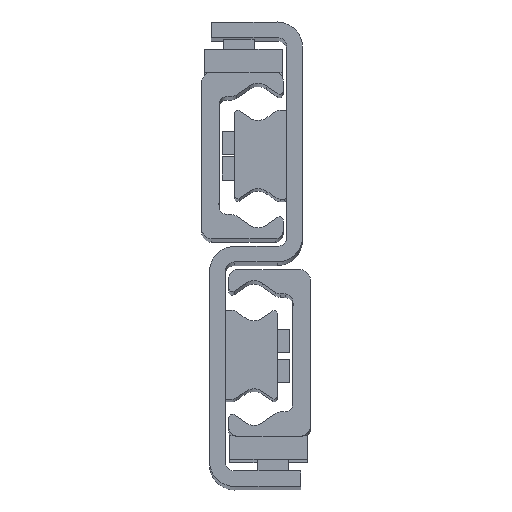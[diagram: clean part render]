
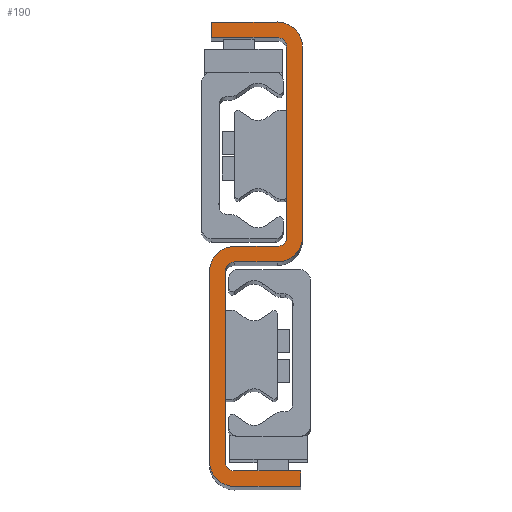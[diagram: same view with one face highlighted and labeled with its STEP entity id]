
A CAD part, top view. The second image highlights one B-rep face of the part: STEP entity #190.
In plain terms, the highlighted planar face has unit normal (0, 0, 1).
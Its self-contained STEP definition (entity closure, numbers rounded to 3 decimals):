
#190=ADVANCED_FACE('',(#569),#570,.T.);
#569=FACE_OUTER_BOUND('',#1123,.T.);
#570=PLANE('',#1124);
#1123=EDGE_LOOP('',(#2301,#2302,#2303,#2304,#2305,#2306,#2307,#2308,#2309,#2310,#2311,#2312,#2313,#2314,#2315,#2316,#2317,#2318,#2319,#2320));
#1124=AXIS2_PLACEMENT_3D('',#2321,#2322,#2323);
#2301=ORIENTED_EDGE('',*,*,#3809,.F.);
#2302=ORIENTED_EDGE('',*,*,#3867,.F.);
#2303=ORIENTED_EDGE('',*,*,#3864,.F.);
#2304=ORIENTED_EDGE('',*,*,#3861,.F.);
#2305=ORIENTED_EDGE('',*,*,#3858,.F.);
#2306=ORIENTED_EDGE('',*,*,#3855,.F.);
#2307=ORIENTED_EDGE('',*,*,#3852,.F.);
#2308=ORIENTED_EDGE('',*,*,#3849,.F.);
#2309=ORIENTED_EDGE('',*,*,#3846,.F.);
#2310=ORIENTED_EDGE('',*,*,#3843,.F.);
#2311=ORIENTED_EDGE('',*,*,#3840,.F.);
#2312=ORIENTED_EDGE('',*,*,#3837,.F.);
#2313=ORIENTED_EDGE('',*,*,#3834,.F.);
#2314=ORIENTED_EDGE('',*,*,#3831,.F.);
#2315=ORIENTED_EDGE('',*,*,#3828,.F.);
#2316=ORIENTED_EDGE('',*,*,#3825,.F.);
#2317=ORIENTED_EDGE('',*,*,#3822,.F.);
#2318=ORIENTED_EDGE('',*,*,#3819,.F.);
#2319=ORIENTED_EDGE('',*,*,#3816,.F.);
#2320=ORIENTED_EDGE('',*,*,#3813,.F.);
#2321=CARTESIAN_POINT('',(-14.,26.,808.0));
#2322=DIRECTION('',(0.0,0.0,1.0));
#2323=DIRECTION('',(1.0,0.0,0.0));
#3809=EDGE_CURVE('',#4647,#4648,#4649,.T.);
#3813=EDGE_CURVE('',#4648,#4655,#4656,.T.);
#3816=EDGE_CURVE('',#4655,#4660,#4661,.T.);
#3819=EDGE_CURVE('',#4660,#4665,#4666,.T.);
#3822=EDGE_CURVE('',#4665,#4670,#4671,.T.);
#3825=EDGE_CURVE('',#4670,#4675,#4676,.T.);
#3828=EDGE_CURVE('',#4675,#4680,#4681,.T.);
#3831=EDGE_CURVE('',#4680,#4685,#4686,.T.);
#3834=EDGE_CURVE('',#4685,#4690,#4691,.T.);
#3837=EDGE_CURVE('',#4690,#4695,#4696,.T.);
#3840=EDGE_CURVE('',#4695,#4700,#4701,.T.);
#3843=EDGE_CURVE('',#4700,#4705,#4706,.T.);
#3846=EDGE_CURVE('',#4705,#4710,#4711,.T.);
#3849=EDGE_CURVE('',#4710,#4715,#4716,.T.);
#3852=EDGE_CURVE('',#4715,#4720,#4721,.T.);
#3855=EDGE_CURVE('',#4720,#4725,#4726,.T.);
#3858=EDGE_CURVE('',#4725,#4730,#4731,.T.);
#3861=EDGE_CURVE('',#4730,#4735,#4736,.T.);
#3864=EDGE_CURVE('',#4735,#4740,#4741,.T.);
#3867=EDGE_CURVE('',#4740,#4647,#4745,.T.);
#4647=VERTEX_POINT('',#5961);
#4648=VERTEX_POINT('',#5962);
#4649=LINE('',#5963,#5964);
#4655=VERTEX_POINT('',#5973);
#4656=CIRCLE('',#5974,2.5);
#4660=VERTEX_POINT('',#5979);
#4661=LINE('',#5980,#5981);
#4665=VERTEX_POINT('',#5987);
#4666=CIRCLE('',#5988,2.5);
#4670=VERTEX_POINT('',#5993);
#4671=LINE('',#5994,#5995);
#4675=VERTEX_POINT('',#6001);
#4676=LINE('',#6002,#6003);
#4680=VERTEX_POINT('',#6009);
#4681=LINE('',#6010,#6011);
#4685=VERTEX_POINT('',#6017);
#4686=CIRCLE('',#6018,6.5);
#4690=VERTEX_POINT('',#6023);
#4691=LINE('',#6024,#6025);
#4695=VERTEX_POINT('',#6031);
#4696=CIRCLE('',#6032,6.5);
#4700=VERTEX_POINT('',#6037);
#4701=LINE('',#6038,#6039);
#4705=VERTEX_POINT('',#6045);
#4706=CIRCLE('',#6046,2.5);
#4710=VERTEX_POINT('',#6051);
#4711=LINE('',#6052,#6053);
#4715=VERTEX_POINT('',#6059);
#4716=CIRCLE('',#6060,2.5);
#4720=VERTEX_POINT('',#6065);
#4721=LINE('',#6066,#6067);
#4725=VERTEX_POINT('',#6073);
#4726=LINE('',#6074,#6075);
#4730=VERTEX_POINT('',#6081);
#4731=LINE('',#6082,#6083);
#4735=VERTEX_POINT('',#6089);
#4736=CIRCLE('',#6090,6.5);
#4740=VERTEX_POINT('',#6095);
#4741=LINE('',#6096,#6097);
#4745=CIRCLE('',#6103,6.5);
#5961=CARTESIAN_POINT('',(-8.5,24.,808.0));
#5962=CARTESIAN_POINT('',(-19.5,24.,808.0));
#5963=CARTESIAN_POINT('',(-8.5,24.,808.0));
#5964=VECTOR('',#7325,1.0);
#5973=CARTESIAN_POINT('',(-22.,21.5,808.0));
#5974=AXIS2_PLACEMENT_3D('',#7329,#7330,#7331);
#5979=CARTESIAN_POINT('',(-22.,-27.5,808.0));
#5980=CARTESIAN_POINT('',(-22.,-27.5,808.0));
#5981=VECTOR('',#7336,1.0);
#5987=CARTESIAN_POINT('',(-19.5,-30.,808.0));
#5988=AXIS2_PLACEMENT_3D('',#7339,#7340,#7341);
#5993=CARTESIAN_POINT('',(-2.5,-30.,808.0));
#5994=CARTESIAN_POINT('',(-19.5,-30.,808.0));
#5995=VECTOR('',#7346,1.0);
#6001=CARTESIAN_POINT('',(-2.5,-34.,808.0));
#6002=CARTESIAN_POINT('',(-2.5,-34.,808.0));
#6003=VECTOR('',#7349,1.0);
#6009=CARTESIAN_POINT('',(-19.5,-34.,808.0));
#6010=CARTESIAN_POINT('',(-19.5,-34.,808.0));
#6011=VECTOR('',#7352,1.0);
#6017=CARTESIAN_POINT('',(-26.,-27.5,808.0));
#6018=AXIS2_PLACEMENT_3D('',#7355,#7356,#7357);
#6023=CARTESIAN_POINT('',(-26.,21.5,808.0));
#6024=CARTESIAN_POINT('',(-26.,21.5,808.0));
#6025=VECTOR('',#7362,1.0);
#6031=CARTESIAN_POINT('',(-19.5,28.,808.0));
#6032=AXIS2_PLACEMENT_3D('',#7365,#7366,#7367);
#6037=CARTESIAN_POINT('',(-8.5,28.,808.0));
#6038=CARTESIAN_POINT('',(-8.5,28.,808.0));
#6039=VECTOR('',#7372,1.0);
#6045=CARTESIAN_POINT('',(-6.,30.5,808.0));
#6046=AXIS2_PLACEMENT_3D('',#7375,#7376,#7377);
#6051=CARTESIAN_POINT('',(-6.,79.5,808.0));
#6052=CARTESIAN_POINT('',(-6.,79.5,808.0));
#6053=VECTOR('',#7382,1.0);
#6059=CARTESIAN_POINT('',(-8.5,82.,808.0));
#6060=AXIS2_PLACEMENT_3D('',#7385,#7386,#7387);
#6065=CARTESIAN_POINT('',(-25.5,82.,808.0));
#6066=CARTESIAN_POINT('',(-25.5,82.,808.0));
#6067=VECTOR('',#7392,1.0);
#6073=CARTESIAN_POINT('',(-25.5,86.,808.0));
#6074=CARTESIAN_POINT('',(-25.5,86.,808.0));
#6075=VECTOR('',#7395,1.0);
#6081=CARTESIAN_POINT('',(-8.5,86.,808.0));
#6082=CARTESIAN_POINT('',(-25.5,86.,808.0));
#6083=VECTOR('',#7398,1.0);
#6089=CARTESIAN_POINT('',(-2.,79.5,808.0));
#6090=AXIS2_PLACEMENT_3D('',#7401,#7402,#7403);
#6095=CARTESIAN_POINT('',(-2.,30.5,808.0));
#6096=CARTESIAN_POINT('',(-2.,79.5,808.0));
#6097=VECTOR('',#7408,1.0);
#6103=AXIS2_PLACEMENT_3D('',#7411,#7412,#7413);
#7325=DIRECTION('',(-1.0,0.,0.0));
#7329=CARTESIAN_POINT('',(-19.5,21.5,808.0));
#7330=DIRECTION('',(0.0,0.0,1.0));
#7331=DIRECTION('',(1.0,0.0,0.0));
#7336=DIRECTION('',(-0.0,-1.0,-0.0));
#7339=CARTESIAN_POINT('',(-19.5,-27.5,808.0));
#7340=DIRECTION('',(0.0,0.0,1.0));
#7341=DIRECTION('',(1.0,0.0,0.0));
#7346=DIRECTION('',(1.,0.,0.0));
#7349=DIRECTION('',(-0.0,-1.0,-0.0));
#7352=DIRECTION('',(-1.,0.,-0.0));
#7355=CARTESIAN_POINT('',(-19.5,-27.5,808.0));
#7356=DIRECTION('',(0.0,0.0,-1.0));
#7357=DIRECTION('',(1.0,0.0,0.0));
#7362=DIRECTION('',(0.0,1.0,0.0));
#7365=CARTESIAN_POINT('',(-19.5,21.5,808.0));
#7366=DIRECTION('',(0.0,0.0,-1.0));
#7367=DIRECTION('',(1.0,0.0,0.0));
#7372=DIRECTION('',(1.0,0.,0.0));
#7375=CARTESIAN_POINT('',(-8.5,30.5,808.0));
#7376=DIRECTION('',(0.0,0.0,1.0));
#7377=DIRECTION('',(1.0,0.0,0.0));
#7382=DIRECTION('',(0.0,1.0,0.0));
#7385=CARTESIAN_POINT('',(-8.5,79.5,808.0));
#7386=DIRECTION('',(0.0,0.0,1.0));
#7387=DIRECTION('',(1.0,0.0,0.0));
#7392=DIRECTION('',(-1.,0.,0.0));
#7395=DIRECTION('',(0.0,1.0,0.0));
#7398=DIRECTION('',(1.,0.,0.0));
#7401=CARTESIAN_POINT('',(-8.5,79.5,808.0));
#7402=DIRECTION('',(0.0,0.0,-1.0));
#7403=DIRECTION('',(1.0,0.0,0.0));
#7408=DIRECTION('',(0.,-1.0,0.0));
#7411=CARTESIAN_POINT('',(-8.5,30.5,808.0));
#7412=DIRECTION('',(0.0,0.0,-1.0));
#7413=DIRECTION('',(1.0,0.0,0.0));
